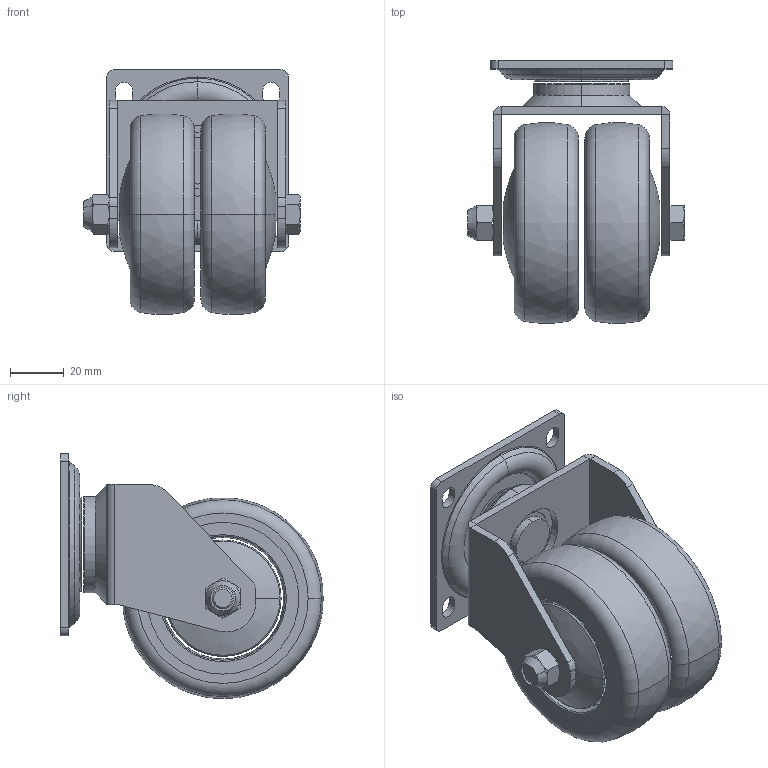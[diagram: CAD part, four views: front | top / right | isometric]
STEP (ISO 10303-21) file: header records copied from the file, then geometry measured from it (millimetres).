
FILE_DESCRIPTION((''),'2;1');
FILE_NAME('PRT0020','2025-07-17T09:19:49',('Administrator'),(''),'CREO PARAMETRIC BY PTC INC, 2022124','CREO PARAMETRIC BY PTC INC, 2022124','');
FILE_SCHEMA(('AUTOMOTIVE_DESIGN { 1 0 10303 214 1 1 1 1 }'));
Length unit declared in the file: millimetre
Products named in the file (1): PRT0020
Bounding box: 80.8 x 97.92 x 91.42 mm (x, y, z)
Surface area: 49254.3 mm2 (no closed solid volume)
Topology: 0 solids, 22 shells, 153 faces, 404 edges, 268 vertices
Faces by surface type: plane 63, cone 30, cylinder 26, torus 26, bspline 8
Entity records: 6339 total; most frequent: CARTESIAN_POINT 1277, DIRECTION 905, ORIENTED_EDGE 700, EDGE_CURVE 404, AXIS2_PLACEMENT_3D 379, VERTEX_POINT 268, CIRCLE 224, EDGE_LOOP 180
